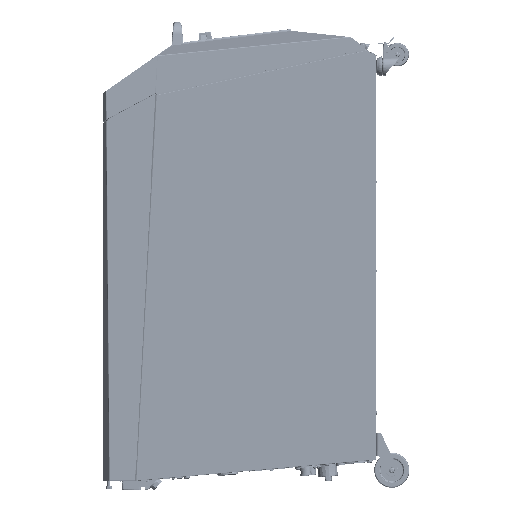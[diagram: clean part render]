
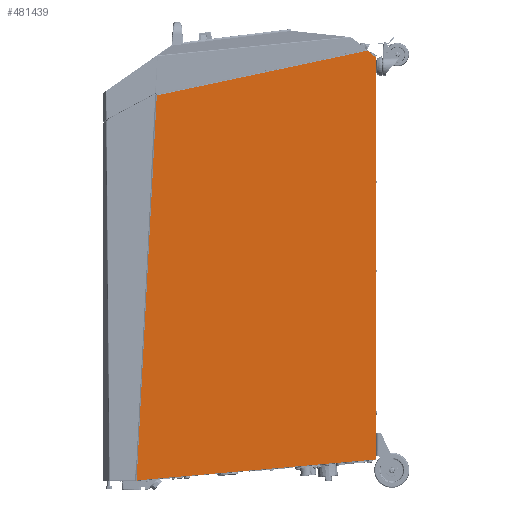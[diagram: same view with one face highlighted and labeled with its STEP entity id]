
A CAD part, left-side view. The second image highlights one B-rep face of the part: STEP entity #481439.
In plain terms, the highlighted planar face has unit normal (-1, 0, 0).
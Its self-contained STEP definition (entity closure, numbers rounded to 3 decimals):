
#14516 = DIRECTION ( 'NONE',  ( 0., 0., -1. ) ) ;
#15745 = CARTESIAN_POINT ( 'NONE',  ( -149.3, 71.05, -916.432 ) ) ;
#19105 = VERTEX_POINT ( 'NONE', #499743 ) ;
#23091 = CARTESIAN_POINT ( 'NONE',  ( -149.3, 70., -942.432 ) ) ;
#29015 = DIRECTION ( 'NONE',  ( 0., 0.996, -0.087 ) ) ;
#29815 = DIRECTION ( 'NONE',  ( 0., 0., -1. ) ) ;
#33057 = CARTESIAN_POINT ( 'NONE',  ( -149.3, 71.35, -916.732 ) ) ;
#33621 = LINE ( 'NONE', #285210, #1166693 ) ;
#36889 = EDGE_CURVE ( 'NONE', #695856, #44819, #982342, .T. ) ;
#44819 = VERTEX_POINT ( 'NONE', #129764 ) ;
#46231 = DIRECTION ( 'NONE',  ( 0., 0., -1. ) ) ;
#47872 = VERTEX_POINT ( 'NONE', #1119221 ) ;
#48080 = ORIENTED_EDGE ( 'NONE', *, *, #367382, .F. ) ;
#56784 = EDGE_CURVE ( 'NONE', #695856, #505759, #490357, .T. ) ;
#63184 = LINE ( 'NONE', #792943, #274543 ) ;
#64999 = ORIENTED_EDGE ( 'NONE', *, *, #1149881, .F. ) ;
#74584 = EDGE_CURVE ( 'NONE', #19105, #105308, #985383, .T. ) ;
#78914 = DIRECTION ( 'NONE',  ( 0., 0.766, 0.643 ) ) ;
#86485 = ORIENTED_EDGE ( 'NONE', *, *, #902645, .F. ) ;
#87203 = DIRECTION ( 'NONE',  ( 0., -0.087, -0.996 ) ) ;
#96240 = EDGE_CURVE ( 'NONE', #505759, #237789, #228235, .T. ) ;
#105308 = VERTEX_POINT ( 'NONE', #787052 ) ;
#129764 = CARTESIAN_POINT ( 'NONE',  ( -149.3, 88.855, -76.956 ) ) ;
#133143 = CIRCLE ( 'NONE', #380632, 0.15 ) ;
#133708 = CARTESIAN_POINT ( 'NONE',  ( -149.3, 533.669, -171.505 ) ) ;
#141783 = CARTESIAN_POINT ( 'NONE',  ( -149.3, 574.667, -986.585 ) ) ;
#177609 = DIRECTION ( 'NONE',  ( 0., 0.996, -0.087 ) ) ;
#195435 = DIRECTION ( 'NONE',  ( 0., -0.978, 0.208 ) ) ;
#202226 = VECTOR ( 'NONE', #319812, 1000. ) ;
#213432 = DIRECTION ( 'NONE',  ( 0., 0.978, -0.208 ) ) ;
#224884 = EDGE_CURVE ( 'NONE', #1138772, #19105, #379898, .T. ) ;
#227113 = AXIS2_PLACEMENT_3D ( 'NONE', #890071, #441345, #14516 ) ;
#228235 = LINE ( 'NONE', #497422, #522229 ) ;
#237789 = VERTEX_POINT ( 'NONE', #741311 ) ;
#250618 = AXIS2_PLACEMENT_3D ( 'NONE', #792477, #1157551, #882208 ) ;
#269101 = CARTESIAN_POINT ( 'NONE',  ( -149.3, 70., -942.432 ) ) ;
#272616 = CARTESIAN_POINT ( 'NONE',  ( -149.3, 574.817, -986.598 ) ) ;
#274543 = VECTOR ( 'NONE', #726773, 1000. ) ;
#280174 = VECTOR ( 'NONE', #87203, 1000. ) ;
#284984 = ORIENTED_EDGE ( 'NONE', *, *, #477466, .F. ) ;
#285210 = CARTESIAN_POINT ( 'NONE',  ( -149.3, 533.669, -171.505 ) ) ;
#286513 = LINE ( 'NONE', #23091, #690318 ) ;
#295978 = CARTESIAN_POINT ( 'NONE',  ( -149.3, 533.942, -171.665 ) ) ;
#302082 = LINE ( 'NONE', #666994, #202226 ) ;
#319812 = DIRECTION ( 'NONE',  ( 0., -0.208, -0.978 ) ) ;
#322804 = ORIENTED_EDGE ( 'NONE', *, *, #762600, .F. ) ;
#337803 = EDGE_CURVE ( 'NONE', #652610, #1151876, #423074, .T. ) ;
#345681 = EDGE_CURVE ( 'NONE', #1134399, #360745, #302082, .T. ) ;
#360745 = VERTEX_POINT ( 'NONE', #295978 ) ;
#367382 = EDGE_CURVE ( 'NONE', #840970, #951845, #597514, .T. ) ;
#370547 = FACE_OUTER_BOUND ( 'NONE', #558641, .T. ) ;
#371500 = LINE ( 'NONE', #910082, #1044560 ) ;
#379898 = LINE ( 'NONE', #272616, #280174 ) ;
#380226 = ORIENTED_EDGE ( 'NONE', *, *, #397599, .T. ) ;
#380632 = AXIS2_PLACEMENT_3D ( 'NONE', #141783, #1062895, #1129122 ) ;
#397599 = EDGE_CURVE ( 'NONE', #1134399, #470657, #560547, .T. ) ;
#401865 = ORIENTED_EDGE ( 'NONE', *, *, #575248, .T. ) ;
#422845 = CARTESIAN_POINT ( 'NONE',  ( -149.3, 71.35, -916.582 ) ) ;
#423074 = CIRCLE ( 'NONE', #250618, 0.15 ) ;
#431748 = ORIENTED_EDGE ( 'NONE', *, *, #999811, .F. ) ;
#441345 = DIRECTION ( 'NONE',  ( -1., 0., 0. ) ) ;
#468215 = CARTESIAN_POINT ( 'NONE',  ( -149.3, 574.817, -986.598 ) ) ;
#470657 = VERTEX_POINT ( 'NONE', #805014 ) ;
#471763 = ORIENTED_EDGE ( 'NONE', *, *, #1113728, .T. ) ;
#477466 = EDGE_CURVE ( 'NONE', #360745, #840970, #1029824, .T. ) ;
#478585 = CARTESIAN_POINT ( 'NONE',  ( -149.3, 71.05, -91.896 ) ) ;
#481439 = ADVANCED_FACE ( 'NONE', ( #370547 ), #938457, .T. ) ;
#490357 = LINE ( 'NONE', #478585, #513048 ) ;
#496057 = CARTESIAN_POINT ( 'NONE',  ( -149.3, 533.991, -169.989 ) ) ;
#497422 = CARTESIAN_POINT ( 'NONE',  ( -149.3, 538.279, -916.432 ) ) ;
#499743 = CARTESIAN_POINT ( 'NONE',  ( -149.3, 574.725, -987.644 ) ) ;
#505759 = VERTEX_POINT ( 'NONE', #15745 ) ;
#513048 = VECTOR ( 'NONE', #29815, 1000. ) ;
#522229 = VECTOR ( 'NONE', #1059628, 1000. ) ;
#524755 = CARTESIAN_POINT ( 'NONE',  ( -149.3, 574.725, -987.644 ) ) ;
#527571 = CARTESIAN_POINT ( 'NONE',  ( -149.3, 70., -92.777 ) ) ;
#558641 = EDGE_LOOP ( 'NONE', ( #431748, #471763, #322804, #634667, #86485, #580549, #878828, #628044, #648405, #48080, #284984, #1039265, #380226, #64999, #938150, #605707, #401865 ) ) ;
#560547 = LINE ( 'NONE', #757743, #780434 ) ;
#575248 = EDGE_CURVE ( 'NONE', #1138772, #47872, #133143, .T. ) ;
#580549 = ORIENTED_EDGE ( 'NONE', *, *, #96240, .F. ) ;
#590510 = CIRCLE ( 'NONE', #800654, 0.15 ) ;
#597514 = LINE ( 'NONE', #496057, #845540 ) ;
#605707 = ORIENTED_EDGE ( 'NONE', *, *, #224884, .F. ) ;
#628044 = ORIENTED_EDGE ( 'NONE', *, *, #36889, .T. ) ;
#628930 = VECTOR ( 'NONE', #177609, 1000. ) ;
#629599 = VERTEX_POINT ( 'NONE', #269101 ) ;
#634667 = ORIENTED_EDGE ( 'NONE', *, *, #337803, .F. ) ;
#645630 = DIRECTION ( 'NONE',  ( 0., 0., -1. ) ) ;
#648405 = ORIENTED_EDGE ( 'NONE', *, *, #1117322, .F. ) ;
#652610 = VERTEX_POINT ( 'NONE', #887823 ) ;
#666994 = CARTESIAN_POINT ( 'NONE',  ( -149.3, 534.285, -170.051 ) ) ;
#672597 = CARTESIAN_POINT ( 'NONE',  ( -149.3, 534.181, -170.54 ) ) ;
#690318 = VECTOR ( 'NONE', #29015, 1000. ) ;
#695856 = VERTEX_POINT ( 'NONE', #852694 ) ;
#726773 = DIRECTION ( 'NONE',  ( 0., -0.052, 0.999 ) ) ;
#741311 = CARTESIAN_POINT ( 'NONE',  ( -149.3, 71.35, -916.432 ) ) ;
#757380 = VECTOR ( 'NONE', #1049270, 1000. ) ;
#757743 = CARTESIAN_POINT ( 'NONE',  ( -149.3, 89.875, -76.1 ) ) ;
#762600 = EDGE_CURVE ( 'NONE', #1151876, #1067744, #785744, .T. ) ;
#768474 = CARTESIAN_POINT ( 'NONE',  ( -149.3, 70., -916.732 ) ) ;
#780434 = VECTOR ( 'NONE', #213432, 1000. ) ;
#785744 = LINE ( 'NONE', #875482, #757380 ) ;
#787052 = CARTESIAN_POINT ( 'NONE',  ( -149.3, 577.893, -987.921 ) ) ;
#792477 = CARTESIAN_POINT ( 'NONE',  ( -149.3, 71.35, -916.582 ) ) ;
#792943 = CARTESIAN_POINT ( 'NONE',  ( -149.3, 535.084, -171.067 ) ) ;
#800654 = AXIS2_PLACEMENT_3D ( 'NONE', #422845, #967345, #46231 ) ;
#805014 = CARTESIAN_POINT ( 'NONE',  ( -149.3, 535.066, -170.728 ) ) ;
#840970 = VERTEX_POINT ( 'NONE', #1088203 ) ;
#845540 = VECTOR ( 'NONE', #860935, 1000. ) ;
#848725 = DIRECTION ( 'NONE',  ( -1., 0., 0. ) ) ;
#852694 = CARTESIAN_POINT ( 'NONE',  ( -149.3, 71.05, -91.896 ) ) ;
#860935 = DIRECTION ( 'NONE',  ( 0., 0.208, 0.978 ) ) ;
#875482 = CARTESIAN_POINT ( 'NONE',  ( -149.3, 538.279, -916.732 ) ) ;
#878828 = ORIENTED_EDGE ( 'NONE', *, *, #56784, .F. ) ;
#882208 = DIRECTION ( 'NONE',  ( 0., 0., -1. ) ) ;
#887823 = CARTESIAN_POINT ( 'NONE',  ( -149.3, 71.5, -916.582 ) ) ;
#890071 = CARTESIAN_POINT ( 'NONE',  ( -149.3, 533.795, -171.634 ) ) ;
#902645 = EDGE_CURVE ( 'NONE', #237789, #652610, #590510, .T. ) ;
#910082 = CARTESIAN_POINT ( 'NONE',  ( -149.3, 70., -942.432 ) ) ;
#921781 = DIRECTION ( 'NONE',  ( 0., 0., 1. ) ) ;
#938150 = ORIENTED_EDGE ( 'NONE', *, *, #74584, .F. ) ;
#938457 = PLANE ( 'NONE',  #1130601 ) ;
#951845 = VERTEX_POINT ( 'NONE', #133708 ) ;
#967345 = DIRECTION ( 'NONE',  ( -1., 0., 0. ) ) ;
#982342 = LINE ( 'NONE', #527571, #989934 ) ;
#985383 = LINE ( 'NONE', #524755, #628930 ) ;
#989934 = VECTOR ( 'NONE', #78914, 1000. ) ;
#999811 = EDGE_CURVE ( 'NONE', #629599, #47872, #286513, .T. ) ;
#1022412 = CARTESIAN_POINT ( 'NONE',  ( -149.3, 538.279, -170.9 ) ) ;
#1029824 = CIRCLE ( 'NONE', #227113, 0.15 ) ;
#1039265 = ORIENTED_EDGE ( 'NONE', *, *, #345681, .F. ) ;
#1044560 = VECTOR ( 'NONE', #921781, 1000. ) ;
#1049270 = DIRECTION ( 'NONE',  ( 0., -1., 0. ) ) ;
#1059628 = DIRECTION ( 'NONE',  ( 0., 1., 0. ) ) ;
#1062895 = DIRECTION ( 'NONE',  ( 1., 0., 0. ) ) ;
#1067744 = VERTEX_POINT ( 'NONE', #768474 ) ;
#1088203 = CARTESIAN_POINT ( 'NONE',  ( -149.3, 533.648, -171.603 ) ) ;
#1113728 = EDGE_CURVE ( 'NONE', #629599, #1067744, #371500, .T. ) ;
#1117322 = EDGE_CURVE ( 'NONE', #951845, #44819, #33621, .T. ) ;
#1119221 = CARTESIAN_POINT ( 'NONE',  ( -149.3, 574.518, -986.572 ) ) ;
#1129122 = DIRECTION ( 'NONE',  ( 0., 0., -1. ) ) ;
#1130601 = AXIS2_PLACEMENT_3D ( 'NONE', #1022412, #848725, #645630 ) ;
#1134399 = VERTEX_POINT ( 'NONE', #672597 ) ;
#1138772 = VERTEX_POINT ( 'NONE', #468215 ) ;
#1149881 = EDGE_CURVE ( 'NONE', #105308, #470657, #63184, .T. ) ;
#1151876 = VERTEX_POINT ( 'NONE', #33057 ) ;
#1157551 = DIRECTION ( 'NONE',  ( -1., 0., 0. ) ) ;
#1166693 = VECTOR ( 'NONE', #195435, 1000. ) ;
